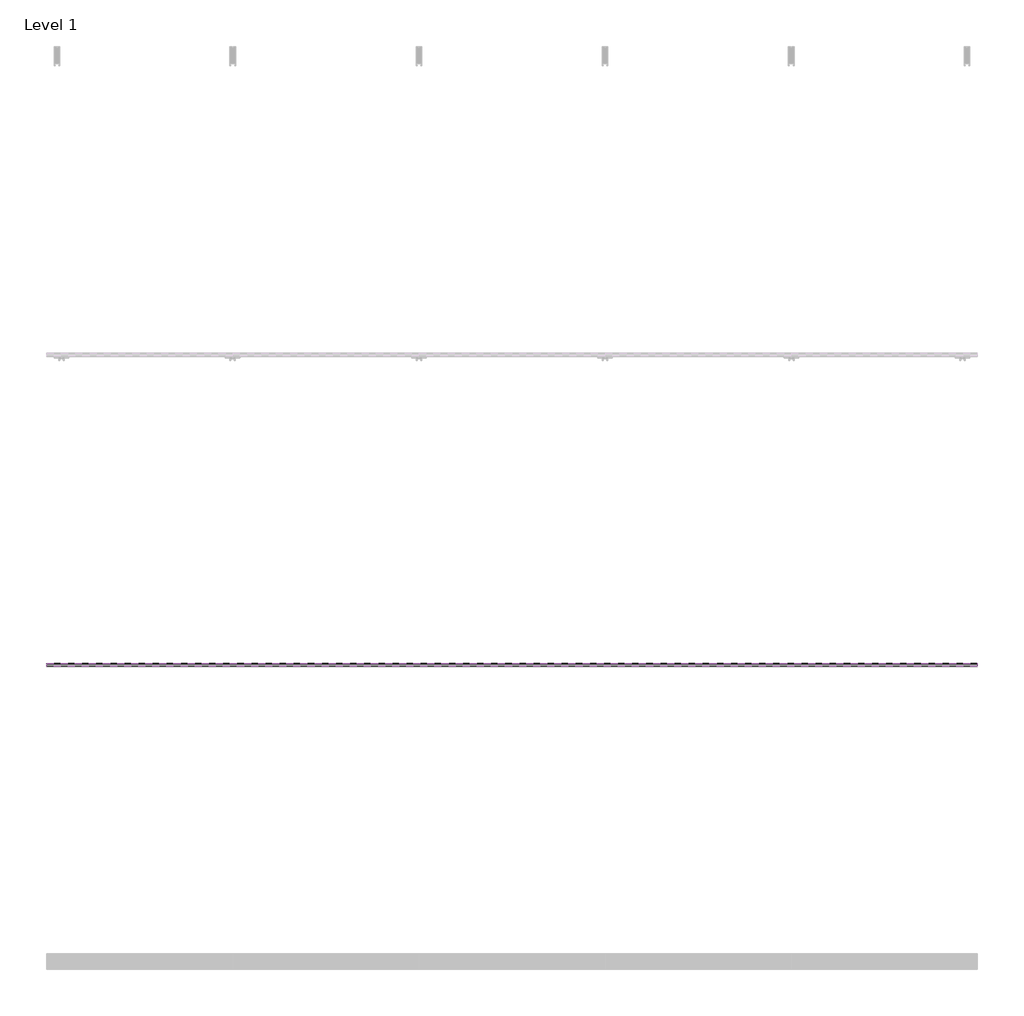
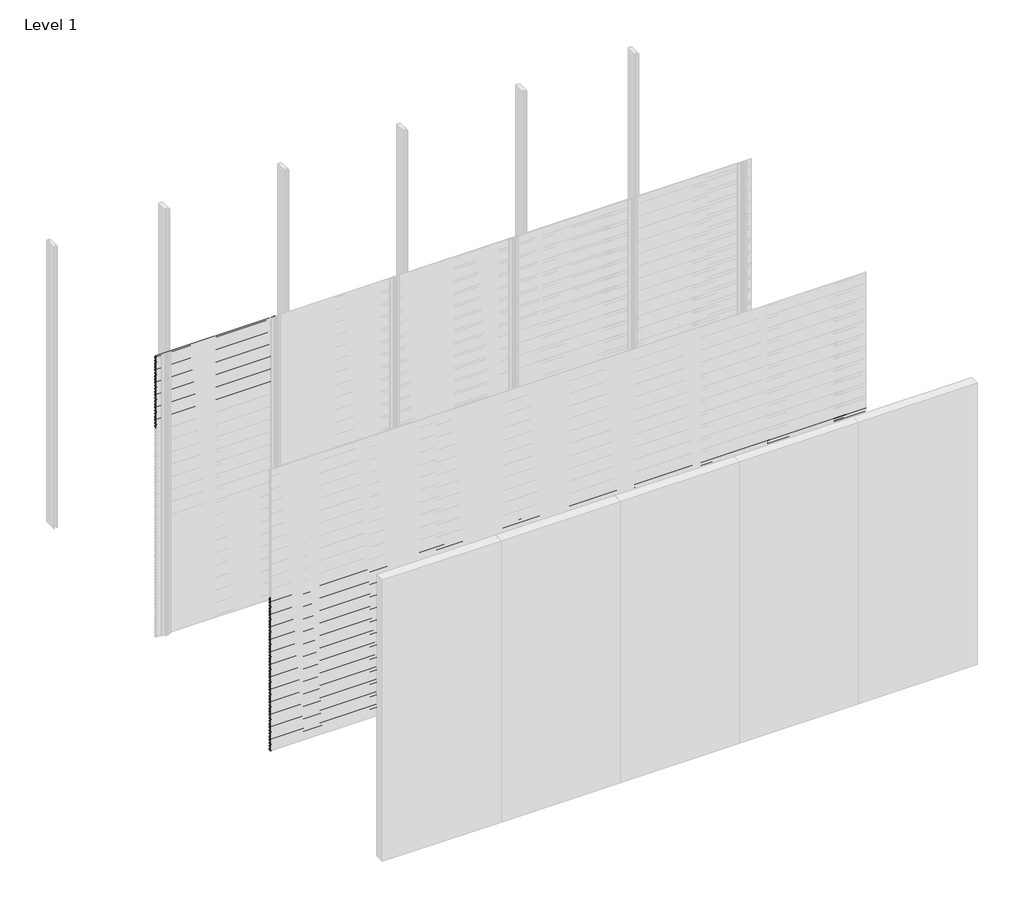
# One storey, part 4 of 77: 72 proxies.
"""IFC4 building model written with IfcOpenShell, lengths in millimetres."""

from ifc_helpers import new_model, si_unit, frame, origin, place, context, project, spatial, polyline, outline, extrude, element, save

model = new_model("IFC4")

# Units and contexts
model_context = context("Model", 3, world=origin())
ifc_project = project(units=[si_unit("LENGTHUNIT", "METRE", prefix="MILLI")], contexts=[model_context])

# Site, building, storey
site = spatial("IfcSite", under=ifc_project)
building = spatial("IfcBuilding", under=site)
storey = spatial("IfcBuildingStorey", under=building, Name="Level 1", Elevation=0.0)

# Proxies
placement = place(None, origin())
element("IfcBuildingElementProxy", 1, Name="Wall Sweeps", at=placement, inside=storey, context=model_context, shape_type="SweptSolid", body=[
    extrude(outline(polyline([(-53978.6, 2972.5359887), (-53998.0, 2983.7366691), (-53998.0, 2997.0), (-53997.0, 2997.0), (-53997.0, 2984.3191057), (-53977.6, 2973.1185105), (-53977.6, 2959.5185105), (-53978.6, 2961.0953129), (-53978.6, 2966.9032062), (-53995.9773817, 2958.8), (-53996.4, 2959.7063078), (-53978.6, 2968.0065841), (-53978.6, 2972.5359887)])), frame((0.0, 0.0, 0.0), z_axis=(1.0, 0.0, 0.0), x_axis=(0.0, 1.0, 0.0)), (0.0, 0.0, 1.0), 1200.0),
])
element("IfcBuildingElementProxy", 2, Name="Wall Sweeps", at=placement, inside=storey, context=model_context, shape_type="SweptSolid", body=[
    extrude(outline(polyline([(-53978.6, 2939.2359887), (-53998.0, 2950.4366691), (-53998.0, 2963.7), (-53997.0, 2963.7), (-53997.0, 2951.0191057), (-53977.6, 2939.8185105), (-53977.6, 2926.2185105), (-53978.6, 2927.7953129), (-53978.6, 2933.6032062), (-53995.9773817, 2925.5), (-53996.4, 2926.4063078), (-53978.6, 2934.7065841), (-53978.6, 2939.2359887)])), frame((0.0, 0.0, 0.0), z_axis=(1.0, 0.0, 0.0), x_axis=(0.0, 1.0, 0.0)), (0.0, 0.0, 1.0), 1200.0),
])
element("IfcBuildingElementProxy", 3, Name="Wall Sweeps", at=placement, inside=storey, context=model_context, shape_type="SweptSolid", body=[
    extrude(outline(polyline([(-53978.6, 2905.9359887), (-53998.0, 2917.1366691), (-53998.0, 2930.4), (-53997.0, 2930.4), (-53997.0, 2917.7191057), (-53977.6, 2906.5185105), (-53977.6, 2892.9185105), (-53978.6, 2894.4953129), (-53978.6, 2900.3032062), (-53995.9773817, 2892.2), (-53996.4, 2893.1063078), (-53978.6, 2901.4065841), (-53978.6, 2905.9359887)])), frame((0.0, 0.0, 0.0), z_axis=(1.0, 0.0, 0.0), x_axis=(0.0, 1.0, 0.0)), (0.0, 0.0, 1.0), 1200.0),
])
element("IfcBuildingElementProxy", 4, Name="Wall Sweeps", at=placement, inside=storey, context=model_context, shape_type="SweptSolid", body=[
    extrude(outline(polyline([(-53978.6, 2872.6359887), (-53998.0, 2883.8366691), (-53998.0, 2897.1), (-53997.0, 2897.1), (-53997.0, 2884.4191057), (-53977.6, 2873.2185105), (-53977.6, 2859.6185105), (-53978.6, 2861.1953129), (-53978.6, 2867.0032062), (-53995.9773817, 2858.9), (-53996.4, 2859.8063078), (-53978.6, 2868.1065841), (-53978.6, 2872.6359887)])), frame((0.0, 0.0, 0.0), z_axis=(1.0, 0.0, 0.0), x_axis=(0.0, 1.0, 0.0)), (0.0, 0.0, 1.0), 1200.0),
])
element("IfcBuildingElementProxy", 5, Name="Wall Sweeps", at=placement, inside=storey, context=model_context, shape_type="SweptSolid", body=[
    extrude(outline(polyline([(-53978.6, 2839.3359887), (-53998.0, 2850.5366691), (-53998.0, 2863.8), (-53997.0, 2863.8), (-53997.0, 2851.1191057), (-53977.6, 2839.9185105), (-53977.6, 2826.3185105), (-53978.6, 2827.8953129), (-53978.6, 2833.7032062), (-53995.9773817, 2825.6), (-53996.4, 2826.5063078), (-53978.6, 2834.8065841), (-53978.6, 2839.3359887)])), frame((0.0, 0.0, 0.0), z_axis=(1.0, 0.0, 0.0), x_axis=(0.0, 1.0, 0.0)), (0.0, 0.0, 1.0), 1200.0),
])
element("IfcBuildingElementProxy", 6, Name="Wall Sweeps", at=placement, inside=storey, context=model_context, shape_type="SweptSolid", body=[
    extrude(outline(polyline([(-53978.6, 2806.0359887), (-53998.0, 2817.2366691), (-53998.0, 2830.5), (-53997.0, 2830.5), (-53997.0, 2817.8191057), (-53977.6, 2806.6185105), (-53977.6, 2793.0185105), (-53978.6, 2794.5953129), (-53978.6, 2800.4032062), (-53995.9773817, 2792.3), (-53996.4, 2793.2063078), (-53978.6, 2801.5065841), (-53978.6, 2806.0359887)])), frame((0.0, 0.0, 0.0), z_axis=(1.0, 0.0, 0.0), x_axis=(0.0, 1.0, 0.0)), (0.0, 0.0, 1.0), 1200.0),
])
element("IfcBuildingElementProxy", 7, Name="Wall Sweeps", at=placement, inside=storey, context=model_context, shape_type="SweptSolid", body=[
    extrude(outline(polyline([(-53978.6, 2772.7359887), (-53998.0, 2783.9366691), (-53998.0, 2797.2), (-53997.0, 2797.2), (-53997.0, 2784.5191057), (-53977.6, 2773.3185105), (-53977.6, 2759.7185105), (-53978.6, 2761.2953129), (-53978.6, 2767.1032062), (-53995.9773817, 2759.0), (-53996.4, 2759.9063078), (-53978.6, 2768.2065841), (-53978.6, 2772.7359887)])), frame((0.0, 0.0, 0.0), z_axis=(1.0, 0.0, 0.0), x_axis=(0.0, 1.0, 0.0)), (0.0, 0.0, 1.0), 1200.0),
])
element("IfcBuildingElementProxy", 8, Name="Wall Sweeps", at=placement, inside=storey, context=model_context, shape_type="SweptSolid", body=[
    extrude(outline(polyline([(-53978.6, 2739.4359887), (-53998.0, 2750.6366691), (-53998.0, 2763.9), (-53997.0, 2763.9), (-53997.0, 2751.2191057), (-53977.6, 2740.0185105), (-53977.6, 2726.4185105), (-53978.6, 2727.9953129), (-53978.6, 2733.8032062), (-53995.9773817, 2725.7), (-53996.4, 2726.6063078), (-53978.6, 2734.9065841), (-53978.6, 2739.4359887)])), frame((0.0, 0.0, 0.0), z_axis=(1.0, 0.0, 0.0), x_axis=(0.0, 1.0, 0.0)), (0.0, 0.0, 1.0), 1200.0),
])
element("IfcBuildingElementProxy", 9, Name="Wall Sweeps", at=placement, inside=storey, context=model_context, shape_type="SweptSolid", body=[
    extrude(outline(polyline([(-53978.6, 2706.1359887), (-53998.0, 2717.3366691), (-53998.0, 2730.6), (-53997.0, 2730.6), (-53997.0, 2717.9191057), (-53977.6, 2706.7185105), (-53977.6, 2693.1185105), (-53978.6, 2694.6953129), (-53978.6, 2700.5032062), (-53995.9773817, 2692.4), (-53996.4, 2693.3063078), (-53978.6, 2701.6065841), (-53978.6, 2706.1359887)])), frame((0.0, 0.0, 0.0), z_axis=(1.0, 0.0, 0.0), x_axis=(0.0, 1.0, 0.0)), (0.0, 0.0, 1.0), 1200.0),
])
element("IfcBuildingElementProxy", 10, Name="Wall Sweeps", at=placement, inside=storey, context=model_context, shape_type="SweptSolid", body=[
    extrude(outline(polyline([(-53978.6, 2672.8359887), (-53998.0, 2684.0366691), (-53998.0, 2697.3), (-53997.0, 2697.3), (-53997.0, 2684.6191057), (-53977.6, 2673.4185105), (-53977.6, 2659.8185105), (-53978.6, 2661.3953129), (-53978.6, 2667.2032062), (-53995.9773817, 2659.1), (-53996.4, 2660.0063078), (-53978.6, 2668.3065841), (-53978.6, 2672.8359887)])), frame((0.0, 0.0, 0.0), z_axis=(1.0, 0.0, 0.0), x_axis=(0.0, 1.0, 0.0)), (0.0, 0.0, 1.0), 1200.0),
])
element("IfcBuildingElementProxy", 11, Name="Wall Sweeps", at=placement, inside=storey, context=model_context, shape_type="SweptSolid", body=[
    extrude(outline(polyline([(-53978.6, 2639.5359887), (-53998.0, 2650.7366691), (-53998.0, 2664.0), (-53997.0, 2664.0), (-53997.0, 2651.3191057), (-53977.6, 2640.1185105), (-53977.6, 2626.5185105), (-53978.6, 2628.0953129), (-53978.6, 2633.9032062), (-53995.9773817, 2625.8), (-53996.4, 2626.7063078), (-53978.6, 2635.0065841), (-53978.6, 2639.5359887)])), frame((0.0, 0.0, 0.0), z_axis=(1.0, 0.0, 0.0), x_axis=(0.0, 1.0, 0.0)), (0.0, 0.0, 1.0), 1200.0),
])
element("IfcBuildingElementProxy", 12, Name="Wall Sweeps", at=placement, inside=storey, context=model_context, shape_type="SweptSolid", body=[
    extrude(outline(polyline([(-53978.6, 2606.2359887), (-53998.0, 2617.4366691), (-53998.0, 2630.7), (-53997.0, 2630.7), (-53997.0, 2618.0191057), (-53977.6, 2606.8185105), (-53977.6, 2593.2185105), (-53978.6, 2594.7953129), (-53978.6, 2600.6032062), (-53995.9773817, 2592.5), (-53996.4, 2593.4063078), (-53978.6, 2601.7065841), (-53978.6, 2606.2359887)])), frame((0.0, 0.0, 0.0), z_axis=(1.0, 0.0, 0.0), x_axis=(0.0, 1.0, 0.0)), (0.0, 0.0, 1.0), 1200.0),
])
element("IfcBuildingElementProxy", 13, Name="Wall Sweeps", at=placement, inside=storey, context=model_context, shape_type="SweptSolid", body=[
    extrude(outline(polyline([(-53978.6, 2572.9359887), (-53998.0, 2584.1366691), (-53998.0, 2597.4), (-53997.0, 2597.4), (-53997.0, 2584.7191057), (-53977.6, 2573.5185105), (-53977.6, 2559.9185105), (-53978.6, 2561.4953129), (-53978.6, 2567.3032062), (-53995.9773817, 2559.2), (-53996.4, 2560.1063078), (-53978.6, 2568.4065841), (-53978.6, 2572.9359887)])), frame((0.0, 0.0, 0.0), z_axis=(1.0, 0.0, 0.0), x_axis=(0.0, 1.0, 0.0)), (0.0, 0.0, 1.0), 1200.0),
])
element("IfcBuildingElementProxy", 14, Name="Wall Sweeps", at=placement, inside=storey, context=model_context, shape_type="SweptSolid", body=[
    extrude(outline(polyline([(-53978.6, 2539.6359887), (-53998.0, 2550.8366691), (-53998.0, 2564.1), (-53997.0, 2564.1), (-53997.0, 2551.4191057), (-53977.6, 2540.2185105), (-53977.6, 2526.6185105), (-53978.6, 2528.1953129), (-53978.6, 2534.0032062), (-53995.9773817, 2525.9), (-53996.4, 2526.8063078), (-53978.6, 2535.1065841), (-53978.6, 2539.6359887)])), frame((0.0, 0.0, 0.0), z_axis=(1.0, 0.0, 0.0), x_axis=(0.0, 1.0, 0.0)), (0.0, 0.0, 1.0), 1200.0),
])
element("IfcBuildingElementProxy", 15, Name="Wall Sweeps", at=placement, inside=storey, context=model_context, shape_type="SweptSolid", body=[
    extrude(outline(polyline([(-53978.6, 2506.3359887), (-53998.0, 2517.5366691), (-53998.0, 2530.8), (-53997.0, 2530.8), (-53997.0, 2518.1191057), (-53977.6, 2506.9185105), (-53977.6, 2493.3185105), (-53978.6, 2494.8953129), (-53978.6, 2500.7032062), (-53995.9773817, 2492.6), (-53996.4, 2493.5063078), (-53978.6, 2501.8065841), (-53978.6, 2506.3359887)])), frame((0.0, 0.0, 0.0), z_axis=(1.0, 0.0, 0.0), x_axis=(0.0, 1.0, 0.0)), (0.0, 0.0, 1.0), 1200.0),
])
element("IfcBuildingElementProxy", 16, Name="Wall Sweeps", at=placement, inside=storey, context=model_context, shape_type="SweptSolid", body=[
    extrude(outline(polyline([(-53978.6, 2473.0359887), (-53998.0, 2484.2366691), (-53998.0, 2497.5), (-53997.0, 2497.5), (-53997.0, 2484.8191057), (-53977.6, 2473.6185105), (-53977.6, 2460.0185105), (-53978.6, 2461.5953129), (-53978.6, 2467.4032062), (-53995.9773817, 2459.3), (-53996.4, 2460.2063078), (-53978.6, 2468.5065841), (-53978.6, 2473.0359887)])), frame((0.0, 0.0, 0.0), z_axis=(1.0, 0.0, 0.0), x_axis=(0.0, 1.0, 0.0)), (0.0, 0.0, 1.0), 1200.0),
])
element("IfcBuildingElementProxy", 17, Name="Wall Sweeps", at=placement, inside=storey, context=model_context, shape_type="SweptSolid", body=[
    extrude(outline(polyline([(-53978.6, 2439.7359887), (-53998.0, 2450.9366691), (-53998.0, 2464.2), (-53997.0, 2464.2), (-53997.0, 2451.5191057), (-53977.6, 2440.3185105), (-53977.6, 2426.7185105), (-53978.6, 2428.2953129), (-53978.6, 2434.1032062), (-53995.9773817, 2426.0), (-53996.4, 2426.9063078), (-53978.6, 2435.2065841), (-53978.6, 2439.7359887)])), frame((0.0, 0.0, 0.0), z_axis=(1.0, 0.0, 0.0), x_axis=(0.0, 1.0, 0.0)), (0.0, 0.0, 1.0), 1200.0),
])
element("IfcBuildingElementProxy", 18, Name="Wall Sweeps", at=placement, inside=storey, context=model_context, shape_type="SweptSolid", body=[
    extrude(outline(polyline([(-53978.6, 2406.4359887), (-53998.0, 2417.6366691), (-53998.0, 2430.9), (-53997.0, 2430.9), (-53997.0, 2418.2191057), (-53977.6, 2407.0185105), (-53977.6, 2393.4185105), (-53978.6, 2394.9953129), (-53978.6, 2400.8032062), (-53995.9773817, 2392.7), (-53996.4, 2393.6063078), (-53978.6, 2401.9065841), (-53978.6, 2406.4359887)])), frame((0.0, 0.0, 0.0), z_axis=(1.0, 0.0, 0.0), x_axis=(0.0, 1.0, 0.0)), (0.0, 0.0, 1.0), 1200.0),
])
element("IfcBuildingElementProxy", 19, Name="Wall Sweeps", at=placement, inside=storey, context=model_context, shape_type="SweptSolid", body=[
    extrude(outline(polyline([(-53978.6, 2373.1359887), (-53998.0, 2384.3366691), (-53998.0, 2397.6), (-53997.0, 2397.6), (-53997.0, 2384.9191057), (-53977.6, 2373.7185105), (-53977.6, 2360.1185105), (-53978.6, 2361.6953129), (-53978.6, 2367.5032062), (-53995.9773817, 2359.4), (-53996.4, 2360.3063078), (-53978.6, 2368.6065841), (-53978.6, 2373.1359887)])), frame((0.0, 0.0, 0.0), z_axis=(1.0, 0.0, 0.0), x_axis=(0.0, 1.0, 0.0)), (0.0, 0.0, 1.0), 1200.0),
])
element("IfcBuildingElementProxy", 20, Name="Wall Sweeps", at=placement, inside=storey, context=model_context, shape_type="SweptSolid", body=[
    extrude(outline(polyline([(-53978.6, 2339.8359887), (-53998.0, 2351.0366691), (-53998.0, 2364.3), (-53997.0, 2364.3), (-53997.0, 2351.6191057), (-53977.6, 2340.4185105), (-53977.6, 2326.8185105), (-53978.6, 2328.3953129), (-53978.6, 2334.2032062), (-53995.9773817, 2326.1), (-53996.4, 2327.0063078), (-53978.6, 2335.3065841), (-53978.6, 2339.8359887)])), frame((0.0, 0.0, 0.0), z_axis=(1.0, 0.0, 0.0), x_axis=(0.0, 1.0, 0.0)), (0.0, 0.0, 1.0), 1200.0),
])
element("IfcBuildingElementProxy", 21, Name="Wall Sweeps", at=placement, inside=storey, context=model_context, shape_type="SweptSolid", body=[
    extrude(outline(polyline([(-53978.6, 2306.5359887), (-53998.0, 2317.7366691), (-53998.0, 2331.0), (-53997.0, 2331.0), (-53997.0, 2318.3191057), (-53977.6, 2307.1185105), (-53977.6, 2293.5185105), (-53978.6, 2295.0953129), (-53978.6, 2300.9032062), (-53995.9773817, 2292.8), (-53996.4, 2293.7063078), (-53978.6, 2302.0065841), (-53978.6, 2306.5359887)])), frame((0.0, 0.0, 0.0), z_axis=(1.0, 0.0, 0.0), x_axis=(0.0, 1.0, 0.0)), (0.0, 0.0, 1.0), 1200.0),
])
element("IfcBuildingElementProxy", 22, Name="Wall Sweeps", at=placement, inside=storey, context=model_context, shape_type="SweptSolid", body=[
    extrude(outline(polyline([(-53978.6, 2273.2359887), (-53998.0, 2284.4366691), (-53998.0, 2297.7), (-53997.0, 2297.7), (-53997.0, 2285.0191057), (-53977.6, 2273.8185105), (-53977.6, 2260.2185105), (-53978.6, 2261.7953129), (-53978.6, 2267.6032062), (-53995.9773817, 2259.5), (-53996.4, 2260.4063078), (-53978.6, 2268.7065841), (-53978.6, 2273.2359887)])), frame((0.0, 0.0, 0.0), z_axis=(1.0, 0.0, 0.0), x_axis=(0.0, 1.0, 0.0)), (0.0, 0.0, 1.0), 1200.0),
])
element("IfcBuildingElementProxy", 23, Name="Wall Sweeps", at=placement, inside=storey, context=model_context, shape_type="SweptSolid", body=[
    extrude(outline(polyline([(-53978.6, 2239.9359887), (-53998.0, 2251.1366691), (-53998.0, 2264.4), (-53997.0, 2264.4), (-53997.0, 2251.7191057), (-53977.6, 2240.5185105), (-53977.6, 2226.9185105), (-53978.6, 2228.4953129), (-53978.6, 2234.3032062), (-53995.9773817, 2226.2), (-53996.4, 2227.1063078), (-53978.6, 2235.4065841), (-53978.6, 2239.9359887)])), frame((0.0, 0.0, 0.0), z_axis=(1.0, 0.0, 0.0), x_axis=(0.0, 1.0, 0.0)), (0.0, 0.0, 1.0), 1200.0),
])
element("IfcBuildingElementProxy", 24, Name="Wall Sweeps", at=placement, inside=storey, context=model_context, shape_type="SweptSolid", body=[
    extrude(outline(polyline([(-55978.6, 1607.2359887), (-55998.0, 1618.4366691), (-55998.0, 1631.7), (-55997.0, 1631.7), (-55997.0, 1619.0191057), (-55977.6, 1607.8185105), (-55977.6, 1594.2185105), (-55978.6, 1595.7953129), (-55978.6, 1601.6032062), (-55995.9773817, 1593.5), (-55996.4, 1594.4063078), (-55978.6, 1602.7065841), (-55978.6, 1607.2359887)])), frame((0.0, 0.0, 0.0), z_axis=(1.0, 0.0, 0.0), x_axis=(0.0, 1.0, 0.0)), (0.0, 0.0, 1.0), 6000.0),
])
element("IfcBuildingElementProxy", 25, Name="Wall Sweeps", at=placement, inside=storey, context=model_context, shape_type="SweptSolid", body=[
    extrude(outline(polyline([(-55978.6, 1573.9359887), (-55998.0, 1585.1366691), (-55998.0, 1598.4), (-55997.0, 1598.4), (-55997.0, 1585.7191057), (-55977.6, 1574.5185105), (-55977.6, 1560.9185105), (-55978.6, 1562.4953129), (-55978.6, 1568.3032062), (-55995.9773817, 1560.2), (-55996.4, 1561.1063078), (-55978.6, 1569.4065841), (-55978.6, 1573.9359887)])), frame((0.0, 0.0, 0.0), z_axis=(1.0, 0.0, 0.0), x_axis=(0.0, 1.0, 0.0)), (0.0, 0.0, 1.0), 6000.0),
])
element("IfcBuildingElementProxy", 26, Name="Wall Sweeps", at=placement, inside=storey, context=model_context, shape_type="SweptSolid", body=[
    extrude(outline(polyline([(-55978.6, 1540.6359887), (-55998.0, 1551.8366691), (-55998.0, 1565.1), (-55997.0, 1565.1), (-55997.0, 1552.4191057), (-55977.6, 1541.2185105), (-55977.6, 1527.6185105), (-55978.6, 1529.1953129), (-55978.6, 1535.0032062), (-55995.9773817, 1526.9), (-55996.4, 1527.8063078), (-55978.6, 1536.1065841), (-55978.6, 1540.6359887)])), frame((0.0, 0.0, 0.0), z_axis=(1.0, 0.0, 0.0), x_axis=(0.0, 1.0, 0.0)), (0.0, 0.0, 1.0), 6000.0),
])
element("IfcBuildingElementProxy", 27, Name="Wall Sweeps", at=placement, inside=storey, context=model_context, shape_type="SweptSolid", body=[
    extrude(outline(polyline([(-55978.6, 1507.3359887), (-55998.0, 1518.5366691), (-55998.0, 1531.8), (-55997.0, 1531.8), (-55997.0, 1519.1191057), (-55977.6, 1507.9185105), (-55977.6, 1494.3185105), (-55978.6, 1495.8953129), (-55978.6, 1501.7032062), (-55995.9773817, 1493.6), (-55996.4, 1494.5063078), (-55978.6, 1502.8065841), (-55978.6, 1507.3359887)])), frame((0.0, 0.0, 0.0), z_axis=(1.0, 0.0, 0.0), x_axis=(0.0, 1.0, 0.0)), (0.0, 0.0, 1.0), 6000.0),
])
element("IfcBuildingElementProxy", 28, Name="Wall Sweeps", at=placement, inside=storey, context=model_context, shape_type="SweptSolid", body=[
    extrude(outline(polyline([(-55978.6, 1474.0359887), (-55998.0, 1485.2366691), (-55998.0, 1498.5), (-55997.0, 1498.5), (-55997.0, 1485.8191057), (-55977.6, 1474.6185105), (-55977.6, 1461.0185105), (-55978.6, 1462.5953129), (-55978.6, 1468.4032062), (-55995.9773817, 1460.3), (-55996.4, 1461.2063078), (-55978.6, 1469.5065841), (-55978.6, 1474.0359887)])), frame((0.0, 0.0, 0.0), z_axis=(1.0, 0.0, 0.0), x_axis=(0.0, 1.0, 0.0)), (0.0, 0.0, 1.0), 6000.0),
])
element("IfcBuildingElementProxy", 29, Name="Wall Sweeps", at=placement, inside=storey, context=model_context, shape_type="SweptSolid", body=[
    extrude(outline(polyline([(-55978.6, 1440.7359887), (-55998.0, 1451.9366691), (-55998.0, 1465.2), (-55997.0, 1465.2), (-55997.0, 1452.5191057), (-55977.6, 1441.3185105), (-55977.6, 1427.7185105), (-55978.6, 1429.2953129), (-55978.6, 1435.1032062), (-55995.9773817, 1427.0), (-55996.4, 1427.9063078), (-55978.6, 1436.2065841), (-55978.6, 1440.7359887)])), frame((0.0, 0.0, 0.0), z_axis=(1.0, 0.0, 0.0), x_axis=(0.0, 1.0, 0.0)), (0.0, 0.0, 1.0), 6000.0),
])
element("IfcBuildingElementProxy", 30, Name="Wall Sweeps", at=placement, inside=storey, context=model_context, shape_type="SweptSolid", body=[
    extrude(outline(polyline([(-55978.6, 1407.4359887), (-55998.0, 1418.6366691), (-55998.0, 1431.9), (-55997.0, 1431.9), (-55997.0, 1419.2191057), (-55977.6, 1408.0185105), (-55977.6, 1394.4185105), (-55978.6, 1395.9953129), (-55978.6, 1401.8032062), (-55995.9773817, 1393.7), (-55996.4, 1394.6063078), (-55978.6, 1402.9065841), (-55978.6, 1407.4359887)])), frame((0.0, 0.0, 0.0), z_axis=(1.0, 0.0, 0.0), x_axis=(0.0, 1.0, 0.0)), (0.0, 0.0, 1.0), 6000.0),
])
element("IfcBuildingElementProxy", 31, Name="Wall Sweeps", at=placement, inside=storey, context=model_context, shape_type="SweptSolid", body=[
    extrude(outline(polyline([(-55978.6, 1374.1359887), (-55998.0, 1385.3366691), (-55998.0, 1398.6), (-55997.0, 1398.6), (-55997.0, 1385.9191057), (-55977.6, 1374.7185105), (-55977.6, 1361.1185105), (-55978.6, 1362.6953129), (-55978.6, 1368.5032062), (-55995.9773817, 1360.4), (-55996.4, 1361.3063078), (-55978.6, 1369.6065841), (-55978.6, 1374.1359887)])), frame((0.0, 0.0, 0.0), z_axis=(1.0, 0.0, 0.0), x_axis=(0.0, 1.0, 0.0)), (0.0, 0.0, 1.0), 6000.0),
])
element("IfcBuildingElementProxy", 32, Name="Wall Sweeps", at=placement, inside=storey, context=model_context, shape_type="SweptSolid", body=[
    extrude(outline(polyline([(-55978.6, 1340.8359887), (-55998.0, 1352.0366691), (-55998.0, 1365.3), (-55997.0, 1365.3), (-55997.0, 1352.6191057), (-55977.6, 1341.4185105), (-55977.6, 1327.8185105), (-55978.6, 1329.3953129), (-55978.6, 1335.2032062), (-55995.9773817, 1327.1), (-55996.4, 1328.0063078), (-55978.6, 1336.3065841), (-55978.6, 1340.8359887)])), frame((0.0, 0.0, 0.0), z_axis=(1.0, 0.0, 0.0), x_axis=(0.0, 1.0, 0.0)), (0.0, 0.0, 1.0), 6000.0),
])
element("IfcBuildingElementProxy", 33, Name="Wall Sweeps", at=placement, inside=storey, context=model_context, shape_type="SweptSolid", body=[
    extrude(outline(polyline([(-55978.6, 1307.5359887), (-55998.0, 1318.7366691), (-55998.0, 1332.0), (-55997.0, 1332.0), (-55997.0, 1319.3191057), (-55977.6, 1308.1185105), (-55977.6, 1294.5185105), (-55978.6, 1296.0953129), (-55978.6, 1301.9032062), (-55995.9773817, 1293.8), (-55996.4, 1294.7063078), (-55978.6, 1303.0065841), (-55978.6, 1307.5359887)])), frame((0.0, 0.0, 0.0), z_axis=(1.0, 0.0, 0.0), x_axis=(0.0, 1.0, 0.0)), (0.0, 0.0, 1.0), 6000.0),
])
element("IfcBuildingElementProxy", 34, Name="Wall Sweeps", at=placement, inside=storey, context=model_context, shape_type="SweptSolid", body=[
    extrude(outline(polyline([(-55978.6, 1274.2359887), (-55998.0, 1285.4366691), (-55998.0, 1298.7), (-55997.0, 1298.7), (-55997.0, 1286.0191057), (-55977.6, 1274.8185105), (-55977.6, 1261.2185105), (-55978.6, 1262.7953129), (-55978.6, 1268.6032062), (-55995.9773817, 1260.5), (-55996.4, 1261.4063078), (-55978.6, 1269.7065841), (-55978.6, 1274.2359887)])), frame((0.0, 0.0, 0.0), z_axis=(1.0, 0.0, 0.0), x_axis=(0.0, 1.0, 0.0)), (0.0, 0.0, 1.0), 6000.0),
])
element("IfcBuildingElementProxy", 35, Name="Wall Sweeps", at=placement, inside=storey, context=model_context, shape_type="SweptSolid", body=[
    extrude(outline(polyline([(-55978.6, 1240.9359887), (-55998.0, 1252.1366691), (-55998.0, 1265.4), (-55997.0, 1265.4), (-55997.0, 1252.7191057), (-55977.6, 1241.5185105), (-55977.6, 1227.9185105), (-55978.6, 1229.4953129), (-55978.6, 1235.3032062), (-55995.9773817, 1227.2), (-55996.4, 1228.1063078), (-55978.6, 1236.4065841), (-55978.6, 1240.9359887)])), frame((0.0, 0.0, 0.0), z_axis=(1.0, 0.0, 0.0), x_axis=(0.0, 1.0, 0.0)), (0.0, 0.0, 1.0), 6000.0),
])
element("IfcBuildingElementProxy", 36, Name="Wall Sweeps", at=placement, inside=storey, context=model_context, shape_type="SweptSolid", body=[
    extrude(outline(polyline([(-55978.6, 1207.6359887), (-55998.0, 1218.8366691), (-55998.0, 1232.1), (-55997.0, 1232.1), (-55997.0, 1219.4191057), (-55977.6, 1208.2185105), (-55977.6, 1194.6185105), (-55978.6, 1196.1953129), (-55978.6, 1202.0032062), (-55995.9773817, 1193.9), (-55996.4, 1194.8063078), (-55978.6, 1203.1065841), (-55978.6, 1207.6359887)])), frame((0.0, 0.0, 0.0), z_axis=(1.0, 0.0, 0.0), x_axis=(0.0, 1.0, 0.0)), (0.0, 0.0, 1.0), 6000.0),
])
element("IfcBuildingElementProxy", 37, Name="Wall Sweeps", at=placement, inside=storey, context=model_context, shape_type="SweptSolid", body=[
    extrude(outline(polyline([(-55978.6, 1174.3359887), (-55998.0, 1185.5366691), (-55998.0, 1198.8), (-55997.0, 1198.8), (-55997.0, 1186.1191057), (-55977.6, 1174.9185105), (-55977.6, 1161.3185105), (-55978.6, 1162.8953129), (-55978.6, 1168.7032062), (-55995.9773817, 1160.6), (-55996.4, 1161.5063078), (-55978.6, 1169.8065841), (-55978.6, 1174.3359887)])), frame((0.0, 0.0, 0.0), z_axis=(1.0, 0.0, 0.0), x_axis=(0.0, 1.0, 0.0)), (0.0, 0.0, 1.0), 6000.0),
])
element("IfcBuildingElementProxy", 38, Name="Wall Sweeps", at=placement, inside=storey, context=model_context, shape_type="SweptSolid", body=[
    extrude(outline(polyline([(-55978.6, 1141.0359887), (-55998.0, 1152.2366691), (-55998.0, 1165.5), (-55997.0, 1165.5), (-55997.0, 1152.8191057), (-55977.6, 1141.6185105), (-55977.6, 1128.0185105), (-55978.6, 1129.5953129), (-55978.6, 1135.4032062), (-55995.9773817, 1127.3), (-55996.4, 1128.2063078), (-55978.6, 1136.5065841), (-55978.6, 1141.0359887)])), frame((0.0, 0.0, 0.0), z_axis=(1.0, 0.0, 0.0), x_axis=(0.0, 1.0, 0.0)), (0.0, 0.0, 1.0), 6000.0),
])
element("IfcBuildingElementProxy", 39, Name="Wall Sweeps", at=placement, inside=storey, context=model_context, shape_type="SweptSolid", body=[
    extrude(outline(polyline([(-55978.6, 1107.7359887), (-55998.0, 1118.9366691), (-55998.0, 1132.2), (-55997.0, 1132.2), (-55997.0, 1119.5191057), (-55977.6, 1108.3185105), (-55977.6, 1094.7185105), (-55978.6, 1096.2953129), (-55978.6, 1102.1032062), (-55995.9773817, 1094.0), (-55996.4, 1094.9063078), (-55978.6, 1103.2065841), (-55978.6, 1107.7359887)])), frame((0.0, 0.0, 0.0), z_axis=(1.0, 0.0, 0.0), x_axis=(0.0, 1.0, 0.0)), (0.0, 0.0, 1.0), 6000.0),
])
element("IfcBuildingElementProxy", 40, Name="Wall Sweeps", at=placement, inside=storey, context=model_context, shape_type="SweptSolid", body=[
    extrude(outline(polyline([(-55978.6, 1074.4359887), (-55998.0, 1085.6366691), (-55998.0, 1098.9), (-55997.0, 1098.9), (-55997.0, 1086.2191057), (-55977.6, 1075.0185105), (-55977.6, 1061.4185105), (-55978.6, 1062.9953129), (-55978.6, 1068.8032062), (-55995.9773817, 1060.7), (-55996.4, 1061.6063078), (-55978.6, 1069.9065841), (-55978.6, 1074.4359887)])), frame((0.0, 0.0, 0.0), z_axis=(1.0, 0.0, 0.0), x_axis=(0.0, 1.0, 0.0)), (0.0, 0.0, 1.0), 6000.0),
])
element("IfcBuildingElementProxy", 41, Name="Wall Sweeps", at=placement, inside=storey, context=model_context, shape_type="SweptSolid", body=[
    extrude(outline(polyline([(-55978.6, 1041.1359887), (-55998.0, 1052.3366691), (-55998.0, 1065.6), (-55997.0, 1065.6), (-55997.0, 1052.9191057), (-55977.6, 1041.7185105), (-55977.6, 1028.1185105), (-55978.6, 1029.6953129), (-55978.6, 1035.5032062), (-55995.9773817, 1027.4), (-55996.4, 1028.3063078), (-55978.6, 1036.6065841), (-55978.6, 1041.1359887)])), frame((0.0, 0.0, 0.0), z_axis=(1.0, 0.0, 0.0), x_axis=(0.0, 1.0, 0.0)), (0.0, 0.0, 1.0), 6000.0),
])
element("IfcBuildingElementProxy", 42, Name="Wall Sweeps", at=placement, inside=storey, context=model_context, shape_type="SweptSolid", body=[
    extrude(outline(polyline([(-55978.6, 1007.8359887), (-55998.0, 1019.0366691), (-55998.0, 1032.3), (-55997.0, 1032.3), (-55997.0, 1019.6191057), (-55977.6, 1008.4185105), (-55977.6, 994.8185105), (-55978.6, 996.3953129), (-55978.6, 1002.2032062), (-55995.9773817, 994.1), (-55996.4, 995.0063078), (-55978.6, 1003.3065841), (-55978.6, 1007.8359887)])), frame((0.0, 0.0, 0.0), z_axis=(1.0, 0.0, 0.0), x_axis=(0.0, 1.0, 0.0)), (0.0, 0.0, 1.0), 6000.0),
])
element("IfcBuildingElementProxy", 43, Name="Wall Sweeps", at=placement, inside=storey, context=model_context, shape_type="SweptSolid", body=[
    extrude(outline(polyline([(-55978.6, 974.5359887), (-55998.0, 985.7366691), (-55998.0, 999.0), (-55997.0, 999.0), (-55997.0, 986.3191057), (-55977.6, 975.1185105), (-55977.6, 961.5185105), (-55978.6, 963.0953129), (-55978.6, 968.9032062), (-55995.9773817, 960.8), (-55996.4, 961.7063078), (-55978.6, 970.0065841), (-55978.6, 974.5359887)])), frame((0.0, 0.0, 0.0), z_axis=(1.0, 0.0, 0.0), x_axis=(0.0, 1.0, 0.0)), (0.0, 0.0, 1.0), 6000.0),
])
element("IfcBuildingElementProxy", 44, Name="Wall Sweeps", at=placement, inside=storey, context=model_context, shape_type="SweptSolid", body=[
    extrude(outline(polyline([(-55978.6, 941.2359887), (-55998.0, 952.4366691), (-55998.0, 965.7), (-55997.0, 965.7), (-55997.0, 953.0191057), (-55977.6, 941.8185105), (-55977.6, 928.2185105), (-55978.6, 929.7953129), (-55978.6, 935.6032062), (-55995.9773817, 927.5), (-55996.4, 928.4063078), (-55978.6, 936.7065841), (-55978.6, 941.2359887)])), frame((0.0, 0.0, 0.0), z_axis=(1.0, 0.0, 0.0), x_axis=(0.0, 1.0, 0.0)), (0.0, 0.0, 1.0), 6000.0),
])
element("IfcBuildingElementProxy", 45, Name="Wall Sweeps", at=placement, inside=storey, context=model_context, shape_type="SweptSolid", body=[
    extrude(outline(polyline([(-55978.6, 907.9359887), (-55998.0, 919.1366691), (-55998.0, 932.4), (-55997.0, 932.4), (-55997.0, 919.7191057), (-55977.6, 908.5185105), (-55977.6, 894.9185105), (-55978.6, 896.4953129), (-55978.6, 902.3032062), (-55995.9773817, 894.2), (-55996.4, 895.1063078), (-55978.6, 903.4065841), (-55978.6, 907.9359887)])), frame((0.0, 0.0, 0.0), z_axis=(1.0, 0.0, 0.0), x_axis=(0.0, 1.0, 0.0)), (0.0, 0.0, 1.0), 6000.0),
])
element("IfcBuildingElementProxy", 46, Name="Wall Sweeps", at=placement, inside=storey, context=model_context, shape_type="SweptSolid", body=[
    extrude(outline(polyline([(-55978.6, 874.6359887), (-55998.0, 885.8366691), (-55998.0, 899.1), (-55997.0, 899.1), (-55997.0, 886.4191057), (-55977.6, 875.2185105), (-55977.6, 861.6185105), (-55978.6, 863.1953129), (-55978.6, 869.0032062), (-55995.9773817, 860.9), (-55996.4, 861.8063078), (-55978.6, 870.1065841), (-55978.6, 874.6359887)])), frame((0.0, 0.0, 0.0), z_axis=(1.0, 0.0, 0.0), x_axis=(0.0, 1.0, 0.0)), (0.0, 0.0, 1.0), 6000.0),
])
element("IfcBuildingElementProxy", 47, Name="Wall Sweeps", at=placement, inside=storey, context=model_context, shape_type="SweptSolid", body=[
    extrude(outline(polyline([(-55978.6, 841.3359887), (-55998.0, 852.5366691), (-55998.0, 865.8), (-55997.0, 865.8), (-55997.0, 853.1191057), (-55977.6, 841.9185105), (-55977.6, 828.3185105), (-55978.6, 829.8953129), (-55978.6, 835.7032062), (-55995.9773817, 827.6), (-55996.4, 828.5063078), (-55978.6, 836.8065841), (-55978.6, 841.3359887)])), frame((0.0, 0.0, 0.0), z_axis=(1.0, 0.0, 0.0), x_axis=(0.0, 1.0, 0.0)), (0.0, 0.0, 1.0), 6000.0),
])
element("IfcBuildingElementProxy", 48, Name="Wall Sweeps", at=placement, inside=storey, context=model_context, shape_type="SweptSolid", body=[
    extrude(outline(polyline([(-55978.6, 808.0359887), (-55998.0, 819.2366691), (-55998.0, 832.5), (-55997.0, 832.5), (-55997.0, 819.8191057), (-55977.6, 808.6185105), (-55977.6, 795.0185105), (-55978.6, 796.5953129), (-55978.6, 802.4032062), (-55995.9773817, 794.3), (-55996.4, 795.2063078), (-55978.6, 803.5065841), (-55978.6, 808.0359887)])), frame((0.0, 0.0, 0.0), z_axis=(1.0, 0.0, 0.0), x_axis=(0.0, 1.0, 0.0)), (0.0, 0.0, 1.0), 6000.0),
])
element("IfcBuildingElementProxy", 49, Name="Wall Sweeps", at=placement, inside=storey, context=model_context, shape_type="SweptSolid", body=[
    extrude(outline(polyline([(-55978.6, 774.7359887), (-55998.0, 785.9366691), (-55998.0, 799.2), (-55997.0, 799.2), (-55997.0, 786.5191057), (-55977.6, 775.3185105), (-55977.6, 761.7185105), (-55978.6, 763.2953129), (-55978.6, 769.1032062), (-55995.9773817, 761.0), (-55996.4, 761.9063078), (-55978.6, 770.2065841), (-55978.6, 774.7359887)])), frame((0.0, 0.0, 0.0), z_axis=(1.0, 0.0, 0.0), x_axis=(0.0, 1.0, 0.0)), (0.0, 0.0, 1.0), 6000.0),
])
element("IfcBuildingElementProxy", 50, Name="Wall Sweeps", at=placement, inside=storey, context=model_context, shape_type="SweptSolid", body=[
    extrude(outline(polyline([(-55978.6, 741.4359887), (-55998.0, 752.6366691), (-55998.0, 765.9), (-55997.0, 765.9), (-55997.0, 753.2191057), (-55977.6, 742.0185105), (-55977.6, 728.4185105), (-55978.6, 729.9953129), (-55978.6, 735.8032062), (-55995.9773817, 727.7), (-55996.4, 728.6063078), (-55978.6, 736.9065841), (-55978.6, 741.4359887)])), frame((0.0, 0.0, 0.0), z_axis=(1.0, 0.0, 0.0), x_axis=(0.0, 1.0, 0.0)), (0.0, 0.0, 1.0), 6000.0),
])
element("IfcBuildingElementProxy", 51, Name="Wall Sweeps", at=placement, inside=storey, context=model_context, shape_type="SweptSolid", body=[
    extrude(outline(polyline([(-55978.6, 708.1359887), (-55998.0, 719.3366691), (-55998.0, 732.6), (-55997.0, 732.6), (-55997.0, 719.9191057), (-55977.6, 708.7185105), (-55977.6, 695.1185105), (-55978.6, 696.6953129), (-55978.6, 702.5032062), (-55995.9773817, 694.4), (-55996.4, 695.3063078), (-55978.6, 703.6065841), (-55978.6, 708.1359887)])), frame((0.0, 0.0, 0.0), z_axis=(1.0, 0.0, 0.0), x_axis=(0.0, 1.0, 0.0)), (0.0, 0.0, 1.0), 6000.0),
])
element("IfcBuildingElementProxy", 52, Name="Wall Sweeps", at=placement, inside=storey, context=model_context, shape_type="SweptSolid", body=[
    extrude(outline(polyline([(-55978.6, 674.8359887), (-55998.0, 686.0366691), (-55998.0, 699.3), (-55997.0, 699.3), (-55997.0, 686.6191057), (-55977.6, 675.4185105), (-55977.6, 661.8185105), (-55978.6, 663.3953129), (-55978.6, 669.2032062), (-55995.9773817, 661.1), (-55996.4, 662.0063078), (-55978.6, 670.3065841), (-55978.6, 674.8359887)])), frame((0.0, 0.0, 0.0), z_axis=(1.0, 0.0, 0.0), x_axis=(0.0, 1.0, 0.0)), (0.0, 0.0, 1.0), 6000.0),
])
element("IfcBuildingElementProxy", 53, Name="Wall Sweeps", at=placement, inside=storey, context=model_context, shape_type="SweptSolid", body=[
    extrude(outline(polyline([(-55978.6, 641.5359887), (-55998.0, 652.7366691), (-55998.0, 666.0), (-55997.0, 666.0), (-55997.0, 653.3191057), (-55977.6, 642.1185105), (-55977.6, 628.5185105), (-55978.6, 630.0953129), (-55978.6, 635.9032062), (-55995.9773817, 627.8), (-55996.4, 628.7063078), (-55978.6, 637.0065841), (-55978.6, 641.5359887)])), frame((0.0, 0.0, 0.0), z_axis=(1.0, 0.0, 0.0), x_axis=(0.0, 1.0, 0.0)), (0.0, 0.0, 1.0), 6000.0),
])
element("IfcBuildingElementProxy", 54, Name="Wall Sweeps", at=placement, inside=storey, context=model_context, shape_type="SweptSolid", body=[
    extrude(outline(polyline([(-55978.6, 608.2359887), (-55998.0, 619.4366691), (-55998.0, 632.7), (-55997.0, 632.7), (-55997.0, 620.0191057), (-55977.6, 608.8185105), (-55977.6, 595.2185105), (-55978.6, 596.7953129), (-55978.6, 602.6032062), (-55995.9773817, 594.5), (-55996.4, 595.4063078), (-55978.6, 603.7065841), (-55978.6, 608.2359887)])), frame((0.0, 0.0, 0.0), z_axis=(1.0, 0.0, 0.0), x_axis=(0.0, 1.0, 0.0)), (0.0, 0.0, 1.0), 6000.0),
])
element("IfcBuildingElementProxy", 55, Name="Wall Sweeps", at=placement, inside=storey, context=model_context, shape_type="SweptSolid", body=[
    extrude(outline(polyline([(-55978.6, 574.9359887), (-55998.0, 586.1366691), (-55998.0, 599.4), (-55997.0, 599.4), (-55997.0, 586.7191057), (-55977.6, 575.5185105), (-55977.6, 561.9185105), (-55978.6, 563.4953129), (-55978.6, 569.3032062), (-55995.9773817, 561.2), (-55996.4, 562.1063078), (-55978.6, 570.4065841), (-55978.6, 574.9359887)])), frame((0.0, 0.0, 0.0), z_axis=(1.0, 0.0, 0.0), x_axis=(0.0, 1.0, 0.0)), (0.0, 0.0, 1.0), 6000.0),
])
element("IfcBuildingElementProxy", 56, Name="Wall Sweeps", at=placement, inside=storey, context=model_context, shape_type="SweptSolid", body=[
    extrude(outline(polyline([(-55978.6, 541.6359887), (-55998.0, 552.8366691), (-55998.0, 566.1), (-55997.0, 566.1), (-55997.0, 553.4191057), (-55977.6, 542.2185105), (-55977.6, 528.6185105), (-55978.6, 530.1953129), (-55978.6, 536.0032062), (-55995.9773817, 527.9), (-55996.4, 528.8063078), (-55978.6, 537.1065841), (-55978.6, 541.6359887)])), frame((0.0, 0.0, 0.0), z_axis=(1.0, 0.0, 0.0), x_axis=(0.0, 1.0, 0.0)), (0.0, 0.0, 1.0), 6000.0),
])
element("IfcBuildingElementProxy", 57, Name="Wall Sweeps", at=placement, inside=storey, context=model_context, shape_type="SweptSolid", body=[
    extrude(outline(polyline([(-55978.6, 508.3359887), (-55998.0, 519.5366691), (-55998.0, 532.8), (-55997.0, 532.8), (-55997.0, 520.1191057), (-55977.6, 508.9185105), (-55977.6, 495.3185105), (-55978.6, 496.8953129), (-55978.6, 502.7032062), (-55995.9773817, 494.6), (-55996.4, 495.5063078), (-55978.6, 503.8065841), (-55978.6, 508.3359887)])), frame((0.0, 0.0, 0.0), z_axis=(1.0, 0.0, 0.0), x_axis=(0.0, 1.0, 0.0)), (0.0, 0.0, 1.0), 6000.0),
])
element("IfcBuildingElementProxy", 58, Name="Wall Sweeps", at=placement, inside=storey, context=model_context, shape_type="SweptSolid", body=[
    extrude(outline(polyline([(-55978.6, 475.0359887), (-55998.0, 486.2366691), (-55998.0, 499.5), (-55997.0, 499.5), (-55997.0, 486.8191057), (-55977.6, 475.6185105), (-55977.6, 462.0185105), (-55978.6, 463.5953129), (-55978.6, 469.4032062), (-55995.9773817, 461.3), (-55996.4, 462.2063078), (-55978.6, 470.5065841), (-55978.6, 475.0359887)])), frame((0.0, 0.0, 0.0), z_axis=(1.0, 0.0, 0.0), x_axis=(0.0, 1.0, 0.0)), (0.0, 0.0, 1.0), 6000.0),
])
element("IfcBuildingElementProxy", 59, Name="Wall Sweeps", at=placement, inside=storey, context=model_context, shape_type="SweptSolid", body=[
    extrude(outline(polyline([(-55978.6, 441.7359887), (-55998.0, 452.9366691), (-55998.0, 466.2), (-55997.0, 466.2), (-55997.0, 453.5191057), (-55977.6, 442.3185105), (-55977.6, 428.7185105), (-55978.6, 430.2953129), (-55978.6, 436.1032062), (-55995.9773817, 428.0), (-55996.4, 428.9063078), (-55978.6, 437.2065841), (-55978.6, 441.7359887)])), frame((0.0, 0.0, 0.0), z_axis=(1.0, 0.0, 0.0), x_axis=(0.0, 1.0, 0.0)), (0.0, 0.0, 1.0), 6000.0),
])
element("IfcBuildingElementProxy", 60, Name="Wall Sweeps", at=placement, inside=storey, context=model_context, shape_type="SweptSolid", body=[
    extrude(outline(polyline([(-55978.6, 408.4359887), (-55998.0, 419.6366691), (-55998.0, 432.9), (-55997.0, 432.9), (-55997.0, 420.2191057), (-55977.6, 409.0185105), (-55977.6, 395.4185105), (-55978.6, 396.9953129), (-55978.6, 402.8032062), (-55995.9773817, 394.7), (-55996.4, 395.6063078), (-55978.6, 403.9065841), (-55978.6, 408.4359887)])), frame((0.0, 0.0, 0.0), z_axis=(1.0, 0.0, 0.0), x_axis=(0.0, 1.0, 0.0)), (0.0, 0.0, 1.0), 6000.0),
])
element("IfcBuildingElementProxy", 61, Name="Wall Sweeps", at=placement, inside=storey, context=model_context, shape_type="SweptSolid", body=[
    extrude(outline(polyline([(-55978.6, 375.1359887), (-55998.0, 386.3366691), (-55998.0, 399.6), (-55997.0, 399.6), (-55997.0, 386.9191057), (-55977.6, 375.7185105), (-55977.6, 362.1185105), (-55978.6, 363.6953129), (-55978.6, 369.5032062), (-55995.9773817, 361.4), (-55996.4, 362.3063078), (-55978.6, 370.6065841), (-55978.6, 375.1359887)])), frame((0.0, 0.0, 0.0), z_axis=(1.0, 0.0, 0.0), x_axis=(0.0, 1.0, 0.0)), (0.0, 0.0, 1.0), 6000.0),
])
element("IfcBuildingElementProxy", 62, Name="Wall Sweeps", at=placement, inside=storey, context=model_context, shape_type="SweptSolid", body=[
    extrude(outline(polyline([(-55978.6, 341.8359887), (-55998.0, 353.0366691), (-55998.0, 366.3), (-55997.0, 366.3), (-55997.0, 353.6191057), (-55977.6, 342.4185105), (-55977.6, 328.8185105), (-55978.6, 330.3953129), (-55978.6, 336.2032062), (-55995.9773817, 328.1), (-55996.4, 329.0063078), (-55978.6, 337.3065841), (-55978.6, 341.8359887)])), frame((0.0, 0.0, 0.0), z_axis=(1.0, 0.0, 0.0), x_axis=(0.0, 1.0, 0.0)), (0.0, 0.0, 1.0), 6000.0),
])
element("IfcBuildingElementProxy", 63, Name="Wall Sweeps", at=placement, inside=storey, context=model_context, shape_type="SweptSolid", body=[
    extrude(outline(polyline([(-55978.6, 308.5359887), (-55998.0, 319.7366691), (-55998.0, 333.0), (-55997.0, 333.0), (-55997.0, 320.3191057), (-55977.6, 309.1185105), (-55977.6, 295.5185105), (-55978.6, 297.0953129), (-55978.6, 302.9032062), (-55995.9773817, 294.8), (-55996.4, 295.7063078), (-55978.6, 304.0065841), (-55978.6, 308.5359887)])), frame((0.0, 0.0, 0.0), z_axis=(1.0, 0.0, 0.0), x_axis=(0.0, 1.0, 0.0)), (0.0, 0.0, 1.0), 6000.0),
])
element("IfcBuildingElementProxy", 64, Name="Wall Sweeps", at=placement, inside=storey, context=model_context, shape_type="SweptSolid", body=[
    extrude(outline(polyline([(-55978.6, 275.2359887), (-55998.0, 286.4366691), (-55998.0, 299.7), (-55997.0, 299.7), (-55997.0, 287.0191057), (-55977.6, 275.8185105), (-55977.6, 262.2185105), (-55978.6, 263.7953129), (-55978.6, 269.6032062), (-55995.9773817, 261.5), (-55996.4, 262.4063078), (-55978.6, 270.7065841), (-55978.6, 275.2359887)])), frame((0.0, 0.0, 0.0), z_axis=(1.0, 0.0, 0.0), x_axis=(0.0, 1.0, 0.0)), (0.0, 0.0, 1.0), 6000.0),
])
element("IfcBuildingElementProxy", 65, Name="Wall Sweeps", at=placement, inside=storey, context=model_context, shape_type="SweptSolid", body=[
    extrude(outline(polyline([(-55978.6, 241.9359887), (-55998.0, 253.1366691), (-55998.0, 266.4), (-55997.0, 266.4), (-55997.0, 253.7191057), (-55977.6, 242.5185105), (-55977.6, 228.9185105), (-55978.6, 230.4953129), (-55978.6, 236.3032062), (-55995.9773817, 228.2), (-55996.4, 229.1063078), (-55978.6, 237.4065841), (-55978.6, 241.9359887)])), frame((0.0, 0.0, 0.0), z_axis=(1.0, 0.0, 0.0), x_axis=(0.0, 1.0, 0.0)), (0.0, 0.0, 1.0), 6000.0),
])
element("IfcBuildingElementProxy", 66, Name="Wall Sweeps", at=placement, inside=storey, context=model_context, shape_type="SweptSolid", body=[
    extrude(outline(polyline([(-55978.6, 208.6359887), (-55998.0, 219.8366691), (-55998.0, 233.1), (-55997.0, 233.1), (-55997.0, 220.4191057), (-55977.6, 209.2185105), (-55977.6, 195.6185105), (-55978.6, 197.1953129), (-55978.6, 203.0032062), (-55995.9773817, 194.9), (-55996.4, 195.8063078), (-55978.6, 204.1065841), (-55978.6, 208.6359887)])), frame((0.0, 0.0, 0.0), z_axis=(1.0, 0.0, 0.0), x_axis=(0.0, 1.0, 0.0)), (0.0, 0.0, 1.0), 6000.0),
])
element("IfcBuildingElementProxy", 67, Name="Wall Sweeps", at=placement, inside=storey, context=model_context, shape_type="SweptSolid", body=[
    extrude(outline(polyline([(-55978.6, 175.3359887), (-55998.0, 186.5366691), (-55998.0, 199.8), (-55997.0, 199.8), (-55997.0, 187.1191057), (-55977.6, 175.9185105), (-55977.6, 162.3185105), (-55978.6, 163.8953129), (-55978.6, 169.7032062), (-55995.9773817, 161.6), (-55996.4, 162.5063078), (-55978.6, 170.8065841), (-55978.6, 175.3359887)])), frame((0.0, 0.0, 0.0), z_axis=(1.0, 0.0, 0.0), x_axis=(0.0, 1.0, 0.0)), (0.0, 0.0, 1.0), 6000.0),
])
element("IfcBuildingElementProxy", 68, Name="Wall Sweeps", at=placement, inside=storey, context=model_context, shape_type="SweptSolid", body=[
    extrude(outline(polyline([(-55978.6, 142.0359887), (-55998.0, 153.2366691), (-55998.0, 166.5), (-55997.0, 166.5), (-55997.0, 153.8191057), (-55977.6, 142.6185105), (-55977.6, 129.0185105), (-55978.6, 130.5953129), (-55978.6, 136.4032062), (-55995.9773817, 128.3), (-55996.4, 129.2063078), (-55978.6, 137.5065841), (-55978.6, 142.0359887)])), frame((0.0, 0.0, 0.0), z_axis=(1.0, 0.0, 0.0), x_axis=(0.0, 1.0, 0.0)), (0.0, 0.0, 1.0), 6000.0),
])
element("IfcBuildingElementProxy", 69, Name="Wall Sweeps", at=placement, inside=storey, context=model_context, shape_type="SweptSolid", body=[
    extrude(outline(polyline([(-55978.6, 108.7359887), (-55998.0, 119.9366691), (-55998.0, 133.2), (-55997.0, 133.2), (-55997.0, 120.5191057), (-55977.6, 109.3185105), (-55977.6, 95.7185105), (-55978.6, 97.2953129), (-55978.6, 103.1032062), (-55995.9773817, 95.0), (-55996.4, 95.9063078), (-55978.6, 104.2065841), (-55978.6, 108.7359887)])), frame((0.0, 0.0, 0.0), z_axis=(1.0, 0.0, 0.0), x_axis=(0.0, 1.0, 0.0)), (0.0, 0.0, 1.0), 6000.0),
])
element("IfcBuildingElementProxy", 70, Name="Wall Sweeps", at=placement, inside=storey, context=model_context, shape_type="SweptSolid", body=[
    extrude(outline(polyline([(-55978.6, 75.4359887), (-55998.0, 86.6366691), (-55998.0, 99.9), (-55997.0, 99.9), (-55997.0, 87.2191057), (-55977.6, 76.0185105), (-55977.6, 62.4185105), (-55978.6, 63.9953129), (-55978.6, 69.8032062), (-55995.9773817, 61.7), (-55996.4, 62.6063078), (-55978.6, 70.9065841), (-55978.6, 75.4359887)])), frame((0.0, 0.0, 0.0), z_axis=(1.0, 0.0, 0.0), x_axis=(0.0, 1.0, 0.0)), (0.0, 0.0, 1.0), 6000.0),
])
element("IfcBuildingElementProxy", 71, Name="Wall Sweeps", at=placement, inside=storey, context=model_context, shape_type="SweptSolid", body=[
    extrude(outline(polyline([(-55978.6, 42.1359887), (-55998.0, 53.3366691), (-55998.0, 66.6), (-55997.0, 66.6), (-55997.0, 53.9191057), (-55977.6, 42.7185105), (-55977.6, 29.1185105), (-55978.6, 30.6953129), (-55978.6, 36.5032062), (-55995.9773817, 28.4), (-55996.4, 29.3063078), (-55978.6, 37.6065841), (-55978.6, 42.1359887)])), frame((0.0, 0.0, 0.0), z_axis=(1.0, 0.0, 0.0), x_axis=(0.0, 1.0, 0.0)), (0.0, 0.0, 1.0), 6000.0),
])
element("IfcBuildingElementProxy", 72, Name="Wall Sweeps", at=placement, inside=storey, context=model_context, shape_type="SweptSolid", body=[
    extrude(outline(polyline([(-55978.6, 8.8359887), (-55998.0, 20.0366691), (-55998.0, 33.3), (-55997.0, 33.3), (-55997.0, 20.6191057), (-55977.6, 9.4185105), (-55977.6, -4.1814895), (-55978.6, -2.6046871), (-55978.6, 3.2032062), (-55995.9773817, -4.9), (-55996.4, -3.9936922), (-55978.6, 4.3065841), (-55978.6, 8.8359887)])), frame((0.0, 0.0, 0.0), z_axis=(1.0, 0.0, 0.0), x_axis=(0.0, 1.0, 0.0)), (0.0, 0.0, 1.0), 6000.0),
])

save(model, "model.ifc")
